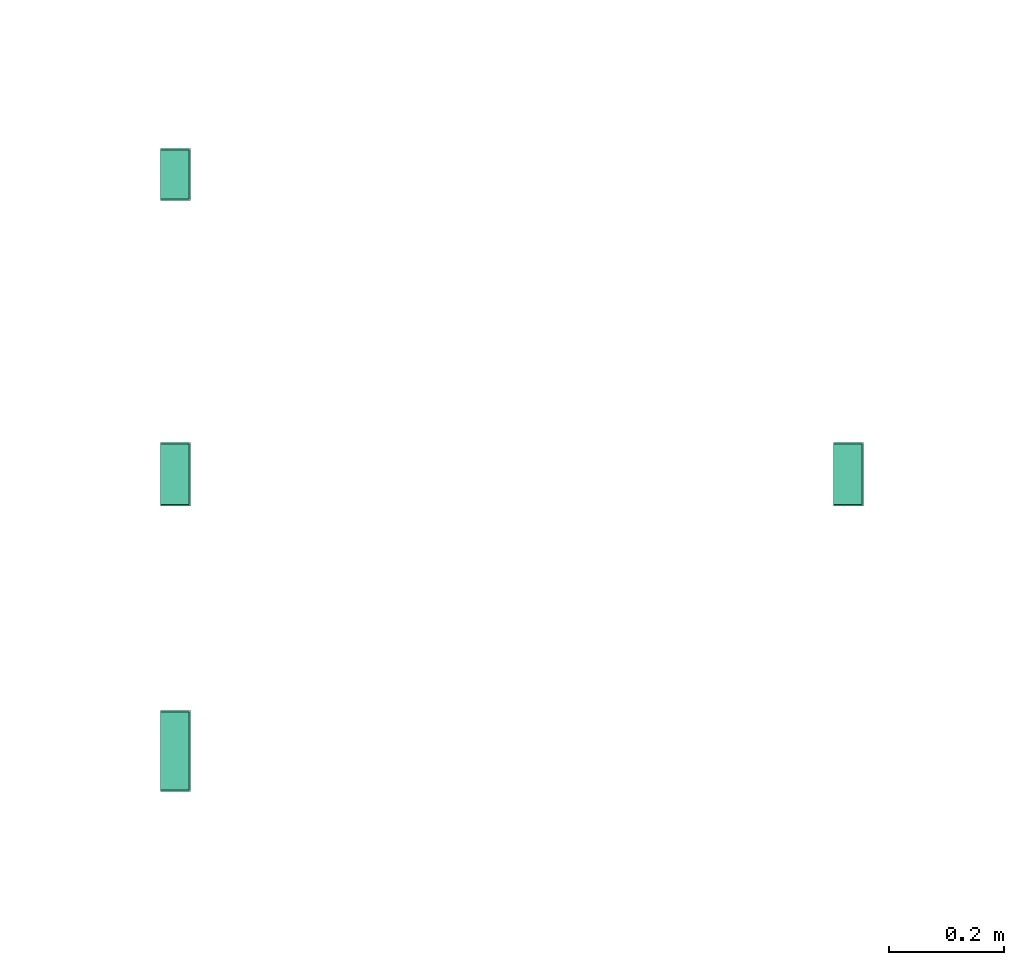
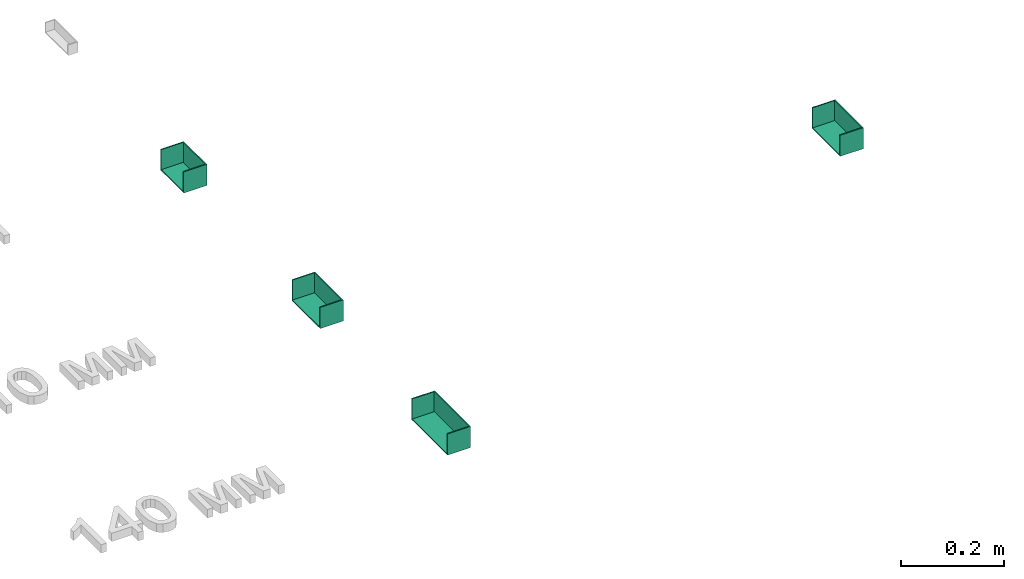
# One storey, part 3 of 87: 4 flow fittings.
"""IFC2X3 building model written with IfcOpenShell, lengths in millimetres."""

from ifc_helpers import new_model, entity, si_unit, converted_unit, derived_unit, direction, frame, origin, origin_2d_with_axis, place, context, subcontext, project, spatial, polyline, rectangle, outline, extrude, source, transform, mapped, material, type_object, type_shapes, element, save


model = new_model("IFC2X3")

# Units and contexts
model_context = context("Model", 3, precision=0.01, world=origin(), true_north=direction((6.12303176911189e-17, 1.0)))
body_context = subcontext(model_context, "Body", "Model", "MODEL_VIEW")
ifc_project = project(units=[si_unit("LENGTHUNIT", "METRE", prefix="MILLI"), si_unit("AREAUNIT", "SQUARE_METRE"), si_unit("VOLUMEUNIT", "CUBIC_METRE"), converted_unit("PLANEANGLEUNIT", "DEGREE", entity("IfcRatioMeasure", 0.0174532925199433), si_unit("PLANEANGLEUNIT", "RADIAN"), dimensions=[0, 0, 0, 0, 0, 0, 0]), si_unit("MASSUNIT", "GRAM", prefix="KILO"), derived_unit("MASSDENSITYUNIT", [(si_unit("MASSUNIT", "GRAM", prefix="KILO"), 1), (si_unit("LENGTHUNIT", "METRE"), -3)]), si_unit("TIMEUNIT", "SECOND"), si_unit("FREQUENCYUNIT", "HERTZ"), si_unit("THERMODYNAMICTEMPERATUREUNIT", "DEGREE_CELSIUS"), derived_unit("THERMALTRANSMITTANCEUNIT", [(si_unit("MASSUNIT", "GRAM", prefix="KILO"), 1), (si_unit("THERMODYNAMICTEMPERATUREUNIT", "KELVIN"), -1), (si_unit("TIMEUNIT", "SECOND"), -3)]), derived_unit("VOLUMETRICFLOWRATEUNIT", [(si_unit("LENGTHUNIT", "METRE"), 3), (si_unit("TIMEUNIT", "SECOND"), -1)]), si_unit("ELECTRICCURRENTUNIT", "AMPERE"), si_unit("ELECTRICVOLTAGEUNIT", "VOLT"), si_unit("POWERUNIT", "WATT"), si_unit("FORCEUNIT", "NEWTON", prefix="KILO"), si_unit("ILLUMINANCEUNIT", "LUX"), si_unit("LUMINOUSFLUXUNIT", "LUMEN"), si_unit("LUMINOUSINTENSITYUNIT", "CANDELA"), derived_unit("USERDEFINED", [(si_unit("MASSUNIT", "GRAM", prefix="KILO"), -1), (si_unit("LENGTHUNIT", "METRE"), -2), (si_unit("TIMEUNIT", "SECOND"), 3), (si_unit("LUMINOUSFLUXUNIT", "LUMEN"), 1)]), derived_unit("LINEARVELOCITYUNIT", [(si_unit("LENGTHUNIT", "METRE"), 1), (si_unit("TIMEUNIT", "SECOND"), -1)]), si_unit("PRESSUREUNIT", "PASCAL"), derived_unit("USERDEFINED", [(si_unit("LENGTHUNIT", "METRE"), -2), (si_unit("MASSUNIT", "GRAM", prefix="KILO"), 1), (si_unit("TIMEUNIT", "SECOND"), -2)])], contexts=[model_context])

# Site, building, storey
site_placement = place(None, origin())
site = spatial("IfcSite", under=ifc_project, at=site_placement, Name="Default", CompositionType="ELEMENT")
building_placement = place(site_placement, origin())
building = spatial("IfcBuilding", under=site, at=building_placement, Name="Наименование здания", CompositionType="ELEMENT")
storey_placement = place(building_placement, origin())
storey = spatial("IfcBuildingStorey", under=building, at=storey_placement, Name="Этаж 01", CompositionType="ELEMENT", Elevation=0.0)

# Flow fittings
ifc_material = material(Name="DKC_Пластик")
cable_carrier_fitting_type_1 = type_object("IfcCableCarrierFittingType", Name="Заглушка", PredefinedType="NOTDEFINED", material=ifc_material)
shared_shape_1 = source(origin(), body_context, "Body", "SweptSolid", [
    extrude(outline(polyline([(-25.6250000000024, -45.0), (24.3749999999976, -45.0), (24.3749999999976, -42.5000000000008), (-23.1249999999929, -42.5000000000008), (-23.1249999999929, 42.4999999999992), (24.3749999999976, 42.4999999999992), (24.3749999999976, 45.0), (-25.6250000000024, 45.0), (-25.6250000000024, -45.0)])), frame((-52.0, 0.0, 0.625000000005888), z_axis=(1.0, 0.0, 0.0), x_axis=(0.0, 0.0, 1.0)), (0.0, 0.0, 1.0), 52.0),
    extrude(rectangle(XDim=2.50000000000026, YDim=85.0000000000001, at=origin_2d_with_axis()), frame((-1.24999999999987, 0.0, -25.0), z_axis=(0.0, 0.0, 1.0), x_axis=(-1.0, 0.0, 0.0)), (0.0, 0.0, 1.0), 50.0),
])
type_shapes(cable_carrier_fitting_type_1, [shared_shape_1])
flow_fitting_1_placement = place(storey_placement, frame((13017.1547740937, -18514.3724506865, 0.0)))
element("IfcFlowFitting", 1, at=flow_fitting_1_placement, inside=storey, type_object=cable_carrier_fitting_type_1, material=ifc_material, Name="КНС_ЗаглушкаТорцевая_ILF_DKC:Заглушка", ObjectType="Заглушка", context=body_context, shape_type="MappedRepresentation", body=[
    mapped(shared_shape_1, transform((0.0, 0.0, 0.0), scale=1.0)),
])
cable_carrier_fitting_type_2 = type_object("IfcCableCarrierFittingType", Name="Заглушка", PredefinedType="NOTDEFINED", material=ifc_material)
shared_shape_2 = source(origin(), body_context, "Body", "SweptSolid", [
    extrude(outline(polyline([(-25.6250000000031, -55.0), (24.3749999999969, -55.0), (24.3749999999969, -52.500000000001), (-23.1249999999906, -52.500000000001), (-23.1249999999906, 52.4999999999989), (24.3749999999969, 52.4999999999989), (24.3749999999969, 55.0), (-25.6250000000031, 55.0), (-25.6250000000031, -55.0)])), frame((-52.0, 0.0, 0.625000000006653), z_axis=(1.0, 0.0, 0.0), x_axis=(0.0, 0.0, 1.0)), (0.0, 0.0, 1.0), 52.0),
    extrude(rectangle(XDim=2.49999999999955, YDim=105.0, at=origin_2d_with_axis()), frame((-1.25000000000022, 0.0, -25.0), z_axis=(0.0, 0.0, 1.0), x_axis=(-1.0, 0.0, 0.0)), (0.0, 0.0, 1.0), 50.0),
])
type_shapes(cable_carrier_fitting_type_2, [shared_shape_2])
flow_fitting_2_placement = place(storey_placement, frame((13017.1547740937, -19034.3724506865, 0.0)))
element("IfcFlowFitting", 2, at=flow_fitting_2_placement, inside=storey, type_object=cable_carrier_fitting_type_2, material=ifc_material, Name="КНС_ЗаглушкаТорцевая_ILF_DKC:Заглушка", ObjectType="Заглушка", context=body_context, shape_type="MappedRepresentation", body=[
    mapped(shared_shape_2, transform((0.0, 0.0, 0.0), scale=1.0)),
])
cable_carrier_fitting_type_3 = type_object("IfcCableCarrierFittingType", Name="Заглушка", PredefinedType="NOTDEFINED", material=ifc_material)
shared_shape_3 = source(origin(), body_context, "Body", "SweptSolid", [
    extrude(outline(polyline([(-25.6250000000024, -70.0), (24.3749999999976, -70.0), (24.3749999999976, -67.5000000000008), (-23.1249999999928, -67.5000000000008), (-23.1249999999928, 67.4999999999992), (24.3749999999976, 67.4999999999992), (24.3749999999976, 70.0), (-25.6250000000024, 70.0), (-25.6250000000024, -70.0)])), frame((-52.2000000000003, 0.0, 0.625000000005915), z_axis=(1.0, 0.0, 0.0), x_axis=(0.0, 0.0, 1.0)), (0.0, 0.0, 1.0), 52.2),
    extrude(rectangle(XDim=2.4999999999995, YDim=135.0, at=origin_2d_with_axis()), frame((-1.25000000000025, 0.0, -25.0), z_axis=(0.0, 0.0, 1.0), x_axis=(-1.0, 0.0, 0.0)), (0.0, 0.0, 1.0), 50.0),
])
type_shapes(cable_carrier_fitting_type_3, [shared_shape_3])
flow_fitting_3_placement = place(storey_placement, frame((13017.1547740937, -19514.3724506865, 0.0)))
element("IfcFlowFitting", 3, at=flow_fitting_3_placement, inside=storey, type_object=cable_carrier_fitting_type_3, material=ifc_material, Name="КНС_ЗаглушкаТорцевая_ILF_DKC:Заглушка", ObjectType="Заглушка", context=body_context, shape_type="MappedRepresentation", body=[
    mapped(shared_shape_3, transform((0.0, 0.0, 0.0), scale=1.0)),
])
cable_carrier_fitting_type_4 = type_object("IfcCableCarrierFittingType", Name="Заглушка", PredefinedType="NOTDEFINED", material=ifc_material)
shared_shape_4 = source(origin(), body_context, "Body", "SweptSolid", [
    extrude(outline(polyline([(-25.6250000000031, -55.0), (24.3749999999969, -55.0), (24.3749999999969, -52.500000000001), (-23.1249999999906, -52.500000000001), (-23.1249999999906, 52.4999999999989), (24.3749999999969, 52.4999999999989), (24.3749999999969, 55.0), (-25.6250000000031, 55.0), (-25.6250000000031, -55.0)])), frame((-52.0, 0.0, 0.625000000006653), z_axis=(1.0, 0.0, 0.0), x_axis=(0.0, 0.0, 1.0)), (0.0, 0.0, 1.0), 52.0),
    extrude(rectangle(XDim=2.49999999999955, YDim=105.0, at=origin_2d_with_axis()), frame((-1.25000000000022, 0.0, -25.0), z_axis=(0.0, 0.0, 1.0), x_axis=(-1.0, 0.0, 0.0)), (0.0, 0.0, 1.0), 50.0),
])
type_shapes(cable_carrier_fitting_type_4, [shared_shape_4])
flow_fitting_4_placement = place(storey_placement, frame((14183.9743462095, -19034.3724506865, 0.0)))
element("IfcFlowFitting", 4, at=flow_fitting_4_placement, inside=storey, type_object=cable_carrier_fitting_type_4, material=ifc_material, Name="КНС_ЗаглушкаТорцевая_ILF_DKC:Заглушка", ObjectType="Заглушка", context=body_context, shape_type="MappedRepresentation", body=[
    mapped(shared_shape_4, transform((0.0, 0.0, 0.0), scale=1.0)),
])

save(model, "model.ifc")
